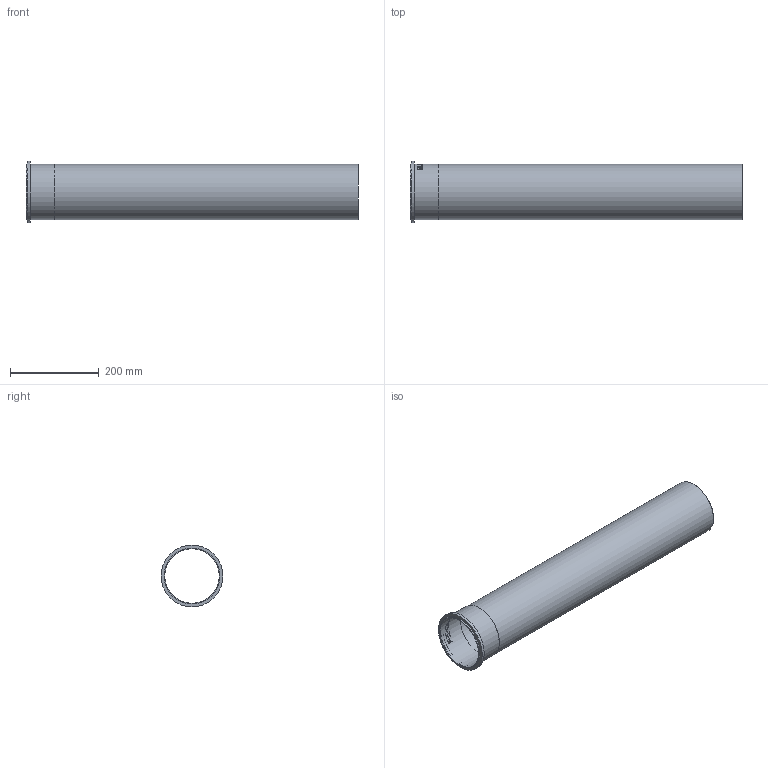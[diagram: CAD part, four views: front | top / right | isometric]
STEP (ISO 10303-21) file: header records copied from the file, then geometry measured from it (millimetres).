
FILE_DESCRIPTION((''),'2;1');
FILE_NAME('I:\WATTS\3D_CAD\3D_CAD_Models\Blucher_Drains\P_StraightPipe\WebsiteFiles\3D\STEP\P5-2.5-316.stp','2009-12-02T14:26:01',('menesek'),(''),'Autodesk Inventor 2010','Autodesk Inventor 2010','');
FILE_SCHEMA(('AUTOMOTIVE_DESIGN { 1 0 10303 214 1 1 1 1 }'));
Length unit declared in the file: inch
Products named in the file (1): P5-2.5-316
Bounding box: 750 x 139.95 x 139.95 mm (x, y, z)
Volume: 328192.9 mm3; surface area: 591735.5 mm2
Topology: 1 solids, 1 shells, 109 faces, 285 edges, 190 vertices
Faces by surface type: plane 59, bspline 34, cylinder 16
Full cylindrical faces by diameter (mm): 122.936 x1, 124.968 x1, 125.984 x2, 139.954 x1
Entity records: 13939 total; most frequent: CARTESIAN_POINT 11561, ORIENTED_EDGE 548, DIRECTION 356, EDGE_CURVE 274, VERTEX_POINT 186, EDGE_LOOP 128, AXIS2_PLACEMENT_3D 120, VECTOR 116
